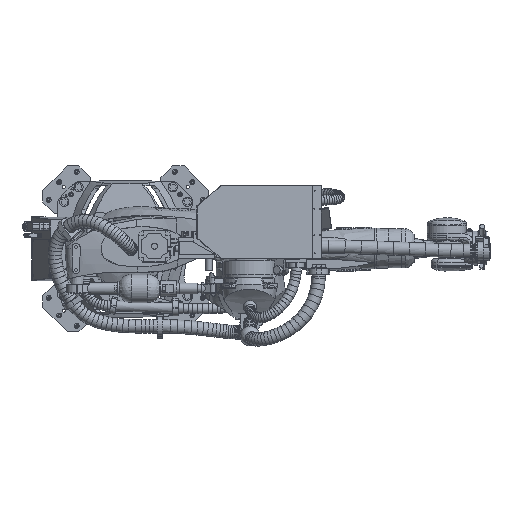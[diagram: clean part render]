
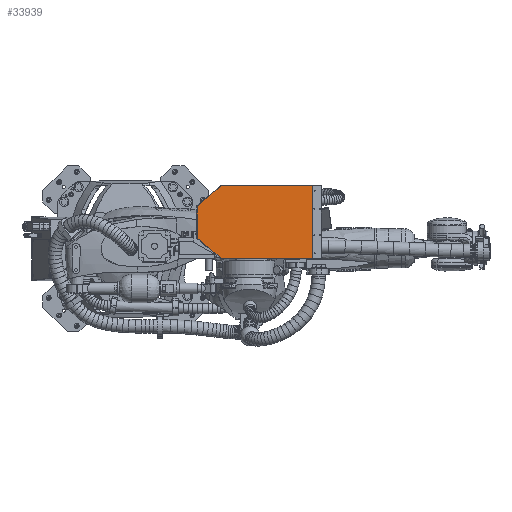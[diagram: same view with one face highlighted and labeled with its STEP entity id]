
A CAD part, top view. The second image highlights one B-rep face of the part: STEP entity #33939.
In plain terms, the highlighted planar face has unit normal (0.035, 0, 0.999).
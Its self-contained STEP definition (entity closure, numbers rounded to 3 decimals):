
#23298=LINE('',#133478,#26958);
#23308=LINE('',#133545,#26968);
#23309=LINE('',#133547,#26969);
#23310=LINE('',#133550,#26970);
#23311=LINE('',#133552,#26971);
#23312=LINE('',#133553,#26972);
#26958=VECTOR('',#91863,1.);
#26968=VECTOR('',#91943,1.);
#26969=VECTOR('',#91946,1.);
#26970=VECTOR('',#91947,1.);
#26971=VECTOR('',#91948,1.);
#26972=VECTOR('',#91949,1.);
#29381=FACE_OUTER_BOUND('',#43074,.T.);
#33939=ADVANCED_FACE('',(#29381),#36401,.T.);
#36401=PLANE('',#80256);
#43074=EDGE_LOOP('',(#54504,#54505,#54506,#54507,#54508,#54509));
#54504=ORIENTED_EDGE('',*,*,#69192,.T.);
#54505=ORIENTED_EDGE('',*,*,#69193,.T.);
#54506=ORIENTED_EDGE('',*,*,#69194,.F.);
#54507=ORIENTED_EDGE('',*,*,#69165,.F.);
#54508=ORIENTED_EDGE('',*,*,#69191,.T.);
#54509=ORIENTED_EDGE('',*,*,#69195,.T.);
#62607=VERTEX_POINT('',#133477);
#62608=VERTEX_POINT('',#133479);
#62629=VERTEX_POINT('',#133544);
#62630=VERTEX_POINT('',#133548);
#62631=VERTEX_POINT('',#133549);
#62632=VERTEX_POINT('',#133551);
#69165=EDGE_CURVE('',#62607,#62608,#23298,.T.);
#69191=EDGE_CURVE('',#62607,#62629,#23308,.T.);
#69192=EDGE_CURVE('',#62630,#62631,#23309,.T.);
#69193=EDGE_CURVE('',#62631,#62632,#23310,.T.);
#69194=EDGE_CURVE('',#62608,#62632,#23311,.T.);
#69195=EDGE_CURVE('',#62629,#62630,#23312,.T.);
#80256=AXIS2_PLACEMENT_3D('',#133554,#91950,#91951);
#91863=DIRECTION('',(0.,-1.,0.));
#91943=DIRECTION('',(-0.999,0.,0.035));
#91946=DIRECTION('',(0.,-1.,0.));
#91947=DIRECTION('',(0.766,-0.643,-0.027));
#91948=DIRECTION('',(-0.999,0.,0.035));
#91949=DIRECTION('',(-0.766,-0.643,0.027));
#91950=DIRECTION('',(0.035,0.,0.999));
#91951=DIRECTION('',(0.999,0.,-0.035));
#133477=CARTESIAN_POINT('',(1134.091,378.5,2037.276));
#133478=CARTESIAN_POINT('',(1134.091,378.5,2037.276));
#133479=CARTESIAN_POINT('',(1134.091,-60.5,2037.276));
#133544=CARTESIAN_POINT('',(579.429,378.5,2056.645));
#133545=CARTESIAN_POINT('',(434.518,378.5,2061.706));
#133547=CARTESIAN_POINT('',(434.518,378.5,2061.706));
#133548=CARTESIAN_POINT('',(434.518,256.831,2061.706));
#133549=CARTESIAN_POINT('',(434.518,61.169,2061.706));
#133550=CARTESIAN_POINT('',(688.885,-152.4,2052.823));
#133551=CARTESIAN_POINT('',(579.429,-60.5,2056.645));
#133552=CARTESIAN_POINT('',(434.518,-60.5,2061.706));
#133553=CARTESIAN_POINT('',(904.918,651.784,2045.279));
#133554=CARTESIAN_POINT('',(1134.091,378.5,2037.276));
